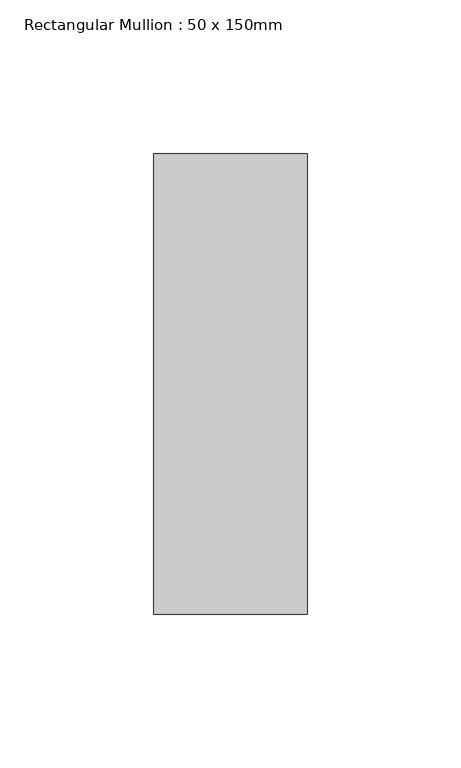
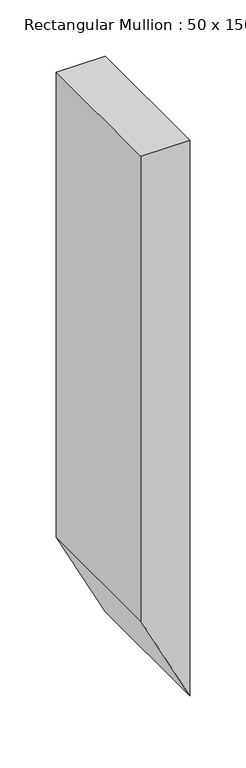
"""IFC4 building model written with IfcOpenShell, lengths in millimetres: member geometry, Rectangular Mullion : 50 x 150mm."""

from ifc_helpers import new_model, si_unit, frame, origin, place, context, project, spatial, polyline, outline, extrude, source, transform, mapped, element, save


def rectangular_mullion_50_x_150mm_8d3b0e21(model_context):
    return source(origin(), model_context, "Body", "SweptSolid", [
        extrude(outline(polyline([(0.0, 0.0), (0.0, -50.0), (-503.5212369, -50.0), (-601.6517621, 0.0), (0.0, 0.0)])), frame((0.0, -75.0, 0.0), z_axis=(0.0, 1.0, 0.0), x_axis=(0.0, 0.0, 1.0)), (0.0, 0.0, 1.0), 150.0),
    ])


if __name__ == "__main__":
    model = new_model("IFC4")
    model_context = context("Model", 3, world=origin())
    ifc_project = project(units=[si_unit("LENGTHUNIT", "METRE", prefix="MILLI")], contexts=[model_context])
    site = spatial("IfcSite", under=ifc_project)
    building = spatial("IfcBuilding", under=site)
    placement = place(None, origin())
    rectangular_mullion_50_x_150mm_shape = rectangular_mullion_50_x_150mm_8d3b0e21(model_context)
    element("IfcMember", 1, ObjectType="Rectangular Mullion : 50 x 150mm", at=placement, inside=building, context=model_context, shape_type="MappedRepresentation", body=[
        mapped(rectangular_mullion_50_x_150mm_shape, transform((0.0, 0.0, 0.0), x_axis=(1.0, 0.0, 0.0), y_axis=(0.0, 1.0, 0.0), z_axis=(0.0, 0.0, 1.0))),
    ])
    save(model, "model.ifc")
